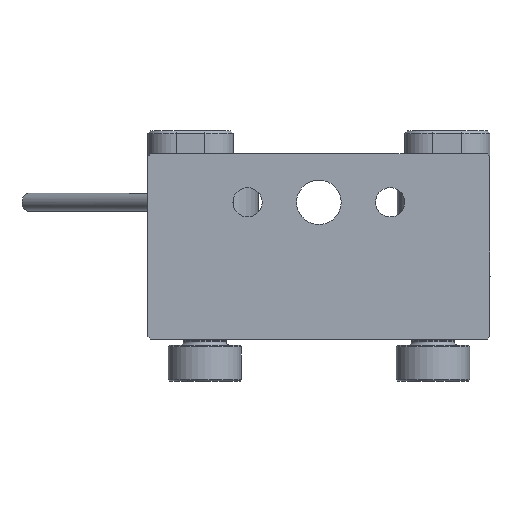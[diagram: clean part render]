
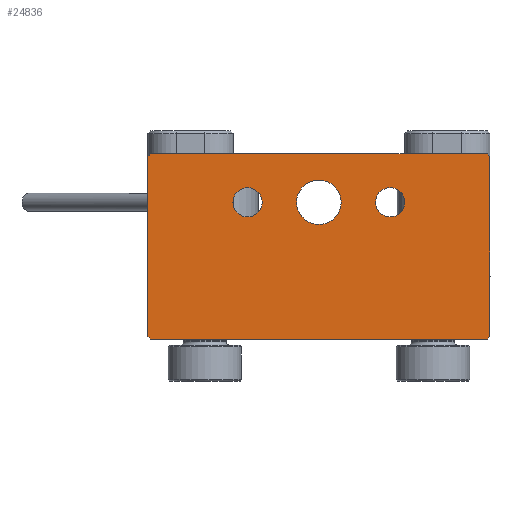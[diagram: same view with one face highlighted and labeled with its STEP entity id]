
A CAD part, front view. The second image highlights one B-rep face of the part: STEP entity #24836.
In plain terms, the highlighted free-form (B-spline) face has degree [1, 1] with [2, 2] control points.
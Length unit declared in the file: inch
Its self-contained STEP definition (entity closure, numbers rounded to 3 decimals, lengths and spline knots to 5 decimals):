
#24660=CARTESIAN_POINT('',(313.99246,299.65635,302.64514));
#24661=VERTEX_POINT('',#24660);
#24668=CARTESIAN_POINT('',(314.01246,299.65635,302.62514));
#24669=VERTEX_POINT('',#24668);
#24670=CARTESIAN_POINT('',(313.99246,299.65635,302.64514));
#24671=DIRECTION('',(0.707,0.0,-0.707));
#24672=VECTOR('',#24671,0.02828);
#24673=LINE('',#24670,#24672);
#24674=EDGE_CURVE('',#24661,#24669,#24673,.T.);
#24741=CARTESIAN_POINT('',(314.01246,299.65635,301.34514));
#24742=CARTESIAN_POINT('',(311.61246,299.65635,301.34514));
#24743=CARTESIAN_POINT('',(314.01246,299.65635,302.64514));
#24744=CARTESIAN_POINT('',(311.61246,299.65635,302.64514));
#24745=B_SPLINE_SURFACE_WITH_KNOTS('',1,1,((#24741,#24743),(#24742,#24744)),.UNSPECIFIED.,.F.,.F.,.U.,(2,2),(2,2),(0.0,2.4),(0.0,1.3),.UNSPECIFIED.);
#24746=ORIENTED_EDGE('',*,*,#24674,.F.);
#24747=CARTESIAN_POINT('',(311.63246,299.65635,302.64514));
#24748=VERTEX_POINT('',#24747);
#24749=CARTESIAN_POINT('',(311.63246,299.65635,302.64514));
#24750=DIRECTION('',(1.0,0.0,0.0));
#24751=VECTOR('',#24750,2.36);
#24752=LINE('',#24749,#24751);
#24753=EDGE_CURVE('',#24748,#24661,#24752,.T.);
#24754=ORIENTED_EDGE('',*,*,#24753,.F.);
#24755=CARTESIAN_POINT('',(311.61246,299.65635,302.62514));
#24756=VERTEX_POINT('',#24755);
#24757=CARTESIAN_POINT('',(311.61246,299.65635,302.62514));
#24758=DIRECTION('',(0.707,0.0,0.707));
#24759=VECTOR('',#24758,0.02828);
#24760=LINE('',#24757,#24759);
#24761=EDGE_CURVE('',#24756,#24748,#24760,.T.);
#24762=ORIENTED_EDGE('',*,*,#24761,.F.);
#24763=CARTESIAN_POINT('',(311.61246,299.65635,301.36514));
#24764=VERTEX_POINT('',#24763);
#24765=CARTESIAN_POINT('',(311.61246,299.65635,301.36514));
#24766=DIRECTION('',(0.0,0.0,1.0));
#24767=VECTOR('',#24766,1.26);
#24768=LINE('',#24765,#24767);
#24769=EDGE_CURVE('',#24764,#24756,#24768,.T.);
#24770=ORIENTED_EDGE('',*,*,#24769,.F.);
#24771=CARTESIAN_POINT('',(311.63246,299.65635,301.34514));
#24772=VERTEX_POINT('',#24771);
#24773=CARTESIAN_POINT('',(311.63246,299.65635,301.34514));
#24774=DIRECTION('',(-0.707,0.0,0.707));
#24775=VECTOR('',#24774,0.02828);
#24776=LINE('',#24773,#24775);
#24777=EDGE_CURVE('',#24772,#24764,#24776,.T.);
#24778=ORIENTED_EDGE('',*,*,#24777,.F.);
#24779=CARTESIAN_POINT('',(313.99246,299.65635,301.34514));
#24780=VERTEX_POINT('',#24779);
#24781=CARTESIAN_POINT('',(311.63246,299.65635,301.34514));
#24782=DIRECTION('',(1.0,0.0,0.0));
#24783=VECTOR('',#24782,2.36);
#24784=LINE('',#24781,#24783);
#24785=EDGE_CURVE('',#24772,#24780,#24784,.T.);
#24786=ORIENTED_EDGE('',*,*,#24785,.T.);
#24787=CARTESIAN_POINT('',(314.01246,299.65635,301.36514));
#24788=VERTEX_POINT('',#24787);
#24789=CARTESIAN_POINT('',(314.01246,299.65635,301.36514));
#24790=DIRECTION('',(-0.707,0.0,-0.707));
#24791=VECTOR('',#24790,0.02828);
#24792=LINE('',#24789,#24791);
#24793=EDGE_CURVE('',#24788,#24780,#24792,.T.);
#24794=ORIENTED_EDGE('',*,*,#24793,.F.);
#24795=CARTESIAN_POINT('',(314.01246,299.65635,302.62514));
#24796=DIRECTION('',(0.0,0.0,-1.0));
#24797=VECTOR('',#24796,1.26);
#24798=LINE('',#24795,#24797);
#24799=EDGE_CURVE('',#24669,#24788,#24798,.T.);
#24800=ORIENTED_EDGE('',*,*,#24799,.F.);
#24801=EDGE_LOOP('',(#24746,#24754,#24762,#24770,#24778,#24786,#24794,#24800));
#24802=FACE_OUTER_BOUND('',#24801,.T.);
#24803=CARTESIAN_POINT('',(312.41496,299.65635,302.30514));
#24804=VERTEX_POINT('',#24803);
#24805=CARTESIAN_POINT('',(312.31246,299.65635,302.30514));
#24806=DIRECTION('',(0.0,-1.0,0.0));
#24807=DIRECTION('',(-1.0,0.0,0.0));
#24808=AXIS2_PLACEMENT_3D('',#24805,#24806,#24807);
#24809=CIRCLE('',#24808,0.1025);
#24810=EDGE_CURVE('',#24804,#24804,#24809,.T.);
#24811=ORIENTED_EDGE('',*,*,#24810,.F.);
#24812=EDGE_LOOP('',(#24811));
#24813=FACE_BOUND('',#24812,.T.);
#24814=CARTESIAN_POINT('',(313.41496,299.65635,302.30514));
#24815=VERTEX_POINT('',#24814);
#24816=CARTESIAN_POINT('',(313.31246,299.65635,302.30514));
#24817=DIRECTION('',(0.0,-1.0,0.0));
#24818=DIRECTION('',(-1.0,0.0,0.0));
#24819=AXIS2_PLACEMENT_3D('',#24816,#24817,#24818);
#24820=CIRCLE('',#24819,0.1025);
#24821=EDGE_CURVE('',#24815,#24815,#24820,.T.);
#24822=ORIENTED_EDGE('',*,*,#24821,.F.);
#24823=EDGE_LOOP('',(#24822));
#24824=FACE_BOUND('',#24823,.T.);
#24825=CARTESIAN_POINT('',(312.65646,299.65635,302.30514));
#24826=VERTEX_POINT('',#24825);
#24827=CARTESIAN_POINT('',(312.81246,299.65635,302.30514));
#24828=DIRECTION('',(0.0,-1.0,0.0));
#24829=DIRECTION('',(1.0,0.0,0.0));
#24830=AXIS2_PLACEMENT_3D('',#24827,#24828,#24829);
#24831=CIRCLE('',#24830,0.156);
#24832=EDGE_CURVE('',#24826,#24826,#24831,.T.);
#24833=ORIENTED_EDGE('',*,*,#24832,.F.);
#24834=EDGE_LOOP('',(#24833));
#24835=FACE_BOUND('',#24834,.T.);
#24836=ADVANCED_FACE('',(#24802,#24813,#24824,#24835),#24745,.F.);
